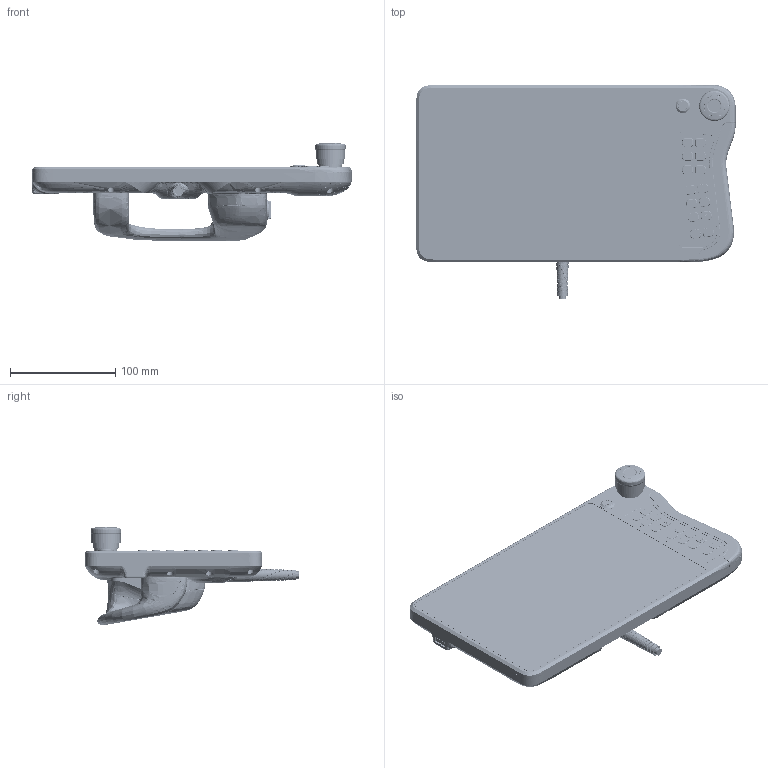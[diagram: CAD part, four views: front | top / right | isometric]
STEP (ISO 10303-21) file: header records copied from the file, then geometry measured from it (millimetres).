
FILE_DESCRIPTION (( 'STEP AP214' ), '1' );
FILE_NAME ('俋倛杅耀_ERP500S尨諒ん.STEP', '2025-09-02T05:20:51', ( '' ), ( '' ), 'SwSTEP 2.0', 'SolidWorks 2020', '' );
FILE_SCHEMA (( 'AUTOMOTIVE_DESIGN' ));
Length unit declared in the file: millimetre
Products named in the file (15): NA60300273_綴褲极-ERP500S尨諒ん_V01; NB40000156_eTPS10_USB PCBA; 羲壽偌聽_GQ12F-10DT; そ躉-3D_GV101WXM-N80_B8; NA60300275_手持软套-ERP500S示教器_V01; 尨諒ん盄旰_SR; NA60300278_示教器线束压块-ERP500S示教器_v01; NA60300276_偌聽臚泂-500S尨諒ん_V01; NA20900434_10.1寸显示屏+触摸屏; 俋倛杅耀_ERP500S尨諒ん; 三位使能按钮_HE6B-M200Y; 揖類そ; 摹礿偌聽_XA1E-BV3U02K; NA60300272_ヶ褲极-ERP500S尨諒ん_V01; NA60300274_后壳把手软套-ERP500S示教器
Assembly tree (14 placements, depth 3):
  俋倛杅耀_ERP500S尨諒ん
    NA60300272_ヶ褲极-ERP500S尨諒ん_V01
    NA60300275_手持软套-ERP500S示教器_V01
    NA60300273_綴褲极-ERP500S尨諒ん_V01
    NA60300274_后壳把手软套-ERP500S示教器
    NA20900434_10.1寸显示屏+触摸屏
      揖類そ
      そ躉-3D_GV101WXM-N80_B8
    NA60300278_示教器线束压块-ERP500S示教器_v01
    NA60300276_偌聽臚泂-500S尨諒ん_V01
    羲壽偌聽_GQ12F-10DT
    摹礿偌聽_XA1E-BV3U02K
    NB40000156_eTPS10_USB PCBA
    尨諒ん盄旰_SR
    三位使能按钮_HE6B-M200Y
Bounding box: 303.87 x 203.84 x 93.12 mm (x, y, z)
Volume: 410103.1 mm3; surface area: 406718.4 mm2
Topology: 18 solids, 40 shells, 6956 faces, 18108 edges, 11035 vertices
Faces by surface type: plane 2347, cylinder 2074, bspline 1766, torus 456, cone 206, sphere 107
Entity records: 529050 total; most frequent: CARTESIAN_POINT 333524, ORIENTED_EDGE 35054, DIRECTION 24937, EDGE_CURVE 17527, VERTEX_POINT 11025, AXIS2_PLACEMENT_3D 9094, EDGE_LOOP 7544, FACE_OUTER_BOUND 6957
